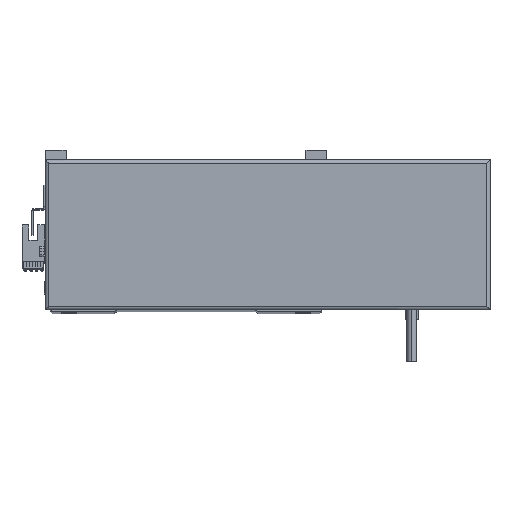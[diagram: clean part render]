
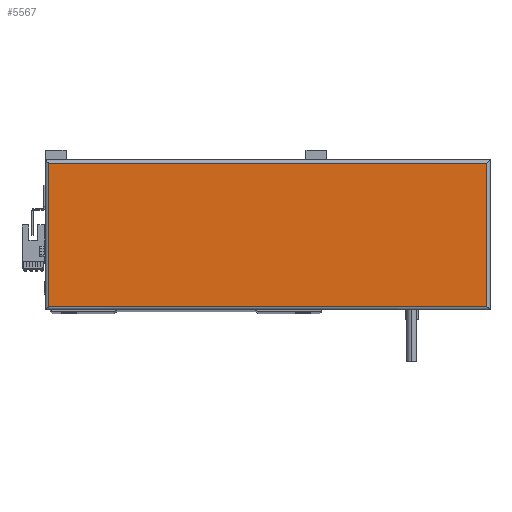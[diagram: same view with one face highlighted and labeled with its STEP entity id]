
A CAD part, top view. The second image highlights one B-rep face of the part: STEP entity #5567.
In plain terms, the highlighted planar face has unit normal (0, 0, 1).
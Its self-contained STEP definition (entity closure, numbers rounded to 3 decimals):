
#530 = VECTOR ( 'NONE', #4605, 1000. ) ;
#1159 = CARTESIAN_POINT ( 'NONE',  ( 267., 2., 44.8 ) ) ;
#1687 = ORIENTED_EDGE ( 'NONE', *, *, #40586, .T. ) ;
#1917 = VERTEX_POINT ( 'NONE', #6244 ) ;
#2049 = DIRECTION ( 'NONE',  ( 0., 0., 1. ) ) ;
#2539 = CARTESIAN_POINT ( 'NONE',  ( 2., 2., 44.8 ) ) ;
#4605 = DIRECTION ( 'NONE',  ( 0., 1., 0. ) ) ;
#5567 = ADVANCED_FACE ( 'NONE', ( #13459 ), #27690, .T. ) ;
#6244 = CARTESIAN_POINT ( 'NONE',  ( 265., 88., 44.8 ) ) ;
#9465 = DIRECTION ( 'NONE',  ( 1., 0., 0. ) ) ;
#10905 = VECTOR ( 'NONE', #43443, 1000. ) ;
#12062 = LINE ( 'NONE', #35934, #10905 ) ;
#13240 = LINE ( 'NONE', #26866, #530 ) ;
#13459 = FACE_OUTER_BOUND ( 'NONE', #36031, .T. ) ;
#16297 = DIRECTION ( 'NONE',  ( 1., 0., 0. ) ) ;
#17046 = CARTESIAN_POINT ( 'NONE',  ( 0., 88., 44.8 ) ) ;
#17568 = ORIENTED_EDGE ( 'NONE', *, *, #33130, .T. ) ;
#18507 = CARTESIAN_POINT ( 'NONE',  ( 265., 2., 44.8 ) ) ;
#23230 = EDGE_CURVE ( 'NONE', #44080, #43492, #12062, .T. ) ;
#26866 = CARTESIAN_POINT ( 'NONE',  ( 265., 90., 44.8 ) ) ;
#27690 = PLANE ( 'NONE',  #32662 ) ;
#32662 = AXIS2_PLACEMENT_3D ( 'NONE', #46302, #2049, #9465 ) ;
#33130 = EDGE_CURVE ( 'NONE', #1917, #44080, #35313, .T. ) ;
#34749 = VECTOR ( 'NONE', #34794, 1000. ) ;
#34794 = DIRECTION ( 'NONE',  ( -1., 0., 0. ) ) ;
#34887 = CARTESIAN_POINT ( 'NONE',  ( 2., 88., 44.8 ) ) ;
#35005 = ORIENTED_EDGE ( 'NONE', *, *, #37644, .T. ) ;
#35313 = LINE ( 'NONE', #17046, #34749 ) ;
#35934 = CARTESIAN_POINT ( 'NONE',  ( 2., 0., 44.8 ) ) ;
#36031 = EDGE_LOOP ( 'NONE', ( #35005, #17568, #37419, #1687 ) ) ;
#37090 = LINE ( 'NONE', #1159, #45678 ) ;
#37419 = ORIENTED_EDGE ( 'NONE', *, *, #23230, .T. ) ;
#37644 = EDGE_CURVE ( 'NONE', #40820, #1917, #13240, .T. ) ;
#40586 = EDGE_CURVE ( 'NONE', #43492, #40820, #37090, .T. ) ;
#40820 = VERTEX_POINT ( 'NONE', #18507 ) ;
#43443 = DIRECTION ( 'NONE',  ( 0., -1., 0. ) ) ;
#43492 = VERTEX_POINT ( 'NONE', #2539 ) ;
#44080 = VERTEX_POINT ( 'NONE', #34887 ) ;
#45678 = VECTOR ( 'NONE', #16297, 1000. ) ;
#46302 = CARTESIAN_POINT ( 'NONE',  ( 133.5, 45., 44.8 ) ) ;
